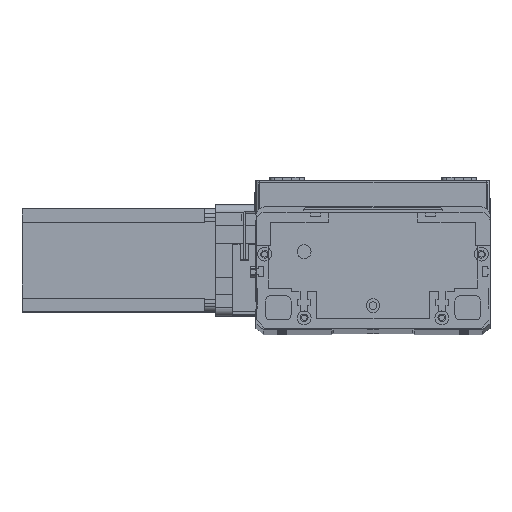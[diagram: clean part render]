
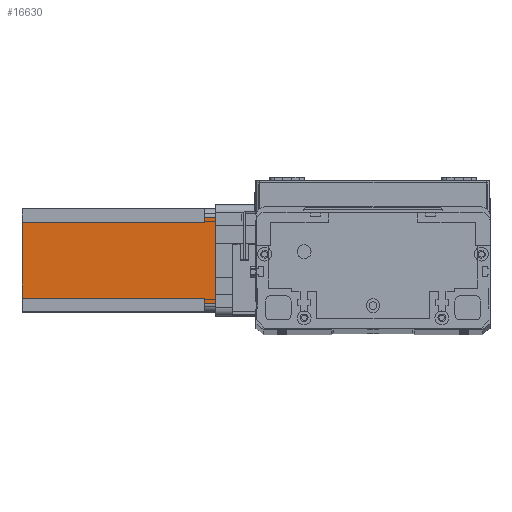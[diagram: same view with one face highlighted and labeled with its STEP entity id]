
A CAD part, top view. The second image highlights one B-rep face of the part: STEP entity #16630.
In plain terms, the highlighted planar face has unit normal (0, 0, 1) as drawn and (0, -1, 0) by its records, which use the part's own axes.
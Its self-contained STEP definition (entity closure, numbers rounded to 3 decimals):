
#374 = VECTOR ( 'NONE', #2276, 1000. ) ;
#435 = CARTESIAN_POINT ( 'NONE',  ( 52., 0., -6.5 ) ) ;
#650 = CARTESIAN_POINT ( 'NONE',  ( 55., 0., -112.5 ) ) ;
#703 = CARTESIAN_POINT ( 'NONE',  ( 8., 0., -6.5 ) ) ;
#919 = VERTEX_POINT ( 'NONE', #5897 ) ;
#1501 = CARTESIAN_POINT ( 'NONE',  ( 8., 0., -112.5 ) ) ;
#2219 = ORIENTED_EDGE ( 'NONE', *, *, #15075, .T. ) ;
#2247 = DIRECTION ( 'NONE',  ( 1., 0., 0. ) ) ;
#2276 = DIRECTION ( 'NONE',  ( 0., 0., 1. ) ) ;
#2536 = LINE ( 'NONE', #435, #3851 ) ;
#3217 = ORIENTED_EDGE ( 'NONE', *, *, #3620, .T. ) ;
#3620 = EDGE_CURVE ( 'NONE', #19903, #11911, #2536, .T. ) ;
#3851 = VECTOR ( 'NONE', #2247, 1000. ) ;
#4484 = CARTESIAN_POINT ( 'NONE',  ( 8., 0., -112.5 ) ) ;
#4748 = CARTESIAN_POINT ( 'NONE',  ( 0., 0., -112.5 ) ) ;
#5897 = CARTESIAN_POINT ( 'NONE',  ( 5., 0., 0. ) ) ;
#6318 = VERTEX_POINT ( 'NONE', #1501 ) ;
#6421 = CARTESIAN_POINT ( 'NONE',  ( 55., 0., -6.5 ) ) ;
#6699 = EDGE_CURVE ( 'NONE', #11911, #12277, #10687, .T. ) ;
#7877 = EDGE_CURVE ( 'NONE', #919, #12277, #25679, .T. ) ;
#8459 = LINE ( 'NONE', #9758, #18656 ) ;
#8869 = PLANE ( 'NONE',  #12822 ) ;
#9178 = DIRECTION ( 'NONE',  ( 0., 0., -1. ) ) ;
#9479 = EDGE_CURVE ( 'NONE', #919, #18341, #22853, .T. ) ;
#9702 = FACE_OUTER_BOUND ( 'NONE', #23234, .T. ) ;
#9758 = CARTESIAN_POINT ( 'NONE',  ( 0., 0., -112.5 ) ) ;
#10121 = ORIENTED_EDGE ( 'NONE', *, *, #6699, .T. ) ;
#10382 = ORIENTED_EDGE ( 'NONE', *, *, #7877, .F. ) ;
#10687 = LINE ( 'NONE', #650, #374 ) ;
#10925 = DIRECTION ( 'NONE',  ( 0., -1., 0. ) ) ;
#11007 = VERTEX_POINT ( 'NONE', #19957 ) ;
#11356 = EDGE_CURVE ( 'NONE', #11007, #18341, #21870, .T. ) ;
#11469 = VERTEX_POINT ( 'NONE', #23490 ) ;
#11911 = VERTEX_POINT ( 'NONE', #6421 ) ;
#12131 = VECTOR ( 'NONE', #20331, 1000. ) ;
#12277 = VERTEX_POINT ( 'NONE', #25714 ) ;
#12822 = AXIS2_PLACEMENT_3D ( 'NONE', #4748, #10925, #24969 ) ;
#13219 = EDGE_CURVE ( 'NONE', #6318, #11007, #17507, .T. ) ;
#14120 = VECTOR ( 'NONE', #9178, 1000. ) ;
#14277 = ORIENTED_EDGE ( 'NONE', *, *, #13219, .F. ) ;
#14335 = ORIENTED_EDGE ( 'NONE', *, *, #9479, .T. ) ;
#14709 = CARTESIAN_POINT ( 'NONE',  ( 52., 0., -6.5 ) ) ;
#15075 = EDGE_CURVE ( 'NONE', #6318, #11469, #8459, .T. ) ;
#15868 = VECTOR ( 'NONE', #17102, 1000. ) ;
#16242 = CARTESIAN_POINT ( 'NONE',  ( 5., 0., -112.5 ) ) ;
#16630 = ADVANCED_FACE ( 'NONE', ( #9702 ), #8869, .T. ) ;
#17102 = DIRECTION ( 'NONE',  ( -1., 0., 0. ) ) ;
#17207 = DIRECTION ( 'NONE',  ( 1., 0., 0. ) ) ;
#17323 = EDGE_CURVE ( 'NONE', #19903, #11469, #20790, .T. ) ;
#17370 = ORIENTED_EDGE ( 'NONE', *, *, #11356, .F. ) ;
#17507 = LINE ( 'NONE', #4484, #26179 ) ;
#17678 = CARTESIAN_POINT ( 'NONE',  ( 0., 0., 0. ) ) ;
#18341 = VERTEX_POINT ( 'NONE', #24707 ) ;
#18656 = VECTOR ( 'NONE', #25836, 1000. ) ;
#18754 = DIRECTION ( 'NONE',  ( 0., 0., 1. ) ) ;
#19836 = VECTOR ( 'NONE', #17207, 1000. ) ;
#19903 = VERTEX_POINT ( 'NONE', #14709 ) ;
#19957 = CARTESIAN_POINT ( 'NONE',  ( 8., 0., -6.5 ) ) ;
#20021 = ORIENTED_EDGE ( 'NONE', *, *, #17323, .F. ) ;
#20331 = DIRECTION ( 'NONE',  ( 0., 0., -1. ) ) ;
#20790 = LINE ( 'NONE', #21326, #14120 ) ;
#21326 = CARTESIAN_POINT ( 'NONE',  ( 52., 0., -112.5 ) ) ;
#21870 = LINE ( 'NONE', #703, #15868 ) ;
#22853 = LINE ( 'NONE', #16242, #12131 ) ;
#23234 = EDGE_LOOP ( 'NONE', ( #3217, #10121, #10382, #14335, #17370, #14277, #2219, #20021 ) ) ;
#23490 = CARTESIAN_POINT ( 'NONE',  ( 52., 0., -112.5 ) ) ;
#24707 = CARTESIAN_POINT ( 'NONE',  ( 5., 0., -6.5 ) ) ;
#24969 = DIRECTION ( 'NONE',  ( 0., 0., -1. ) ) ;
#25679 = LINE ( 'NONE', #17678, #19836 ) ;
#25714 = CARTESIAN_POINT ( 'NONE',  ( 55., 0., 0. ) ) ;
#25836 = DIRECTION ( 'NONE',  ( 1., 0., 0. ) ) ;
#26179 = VECTOR ( 'NONE', #18754, 1000. ) ;
